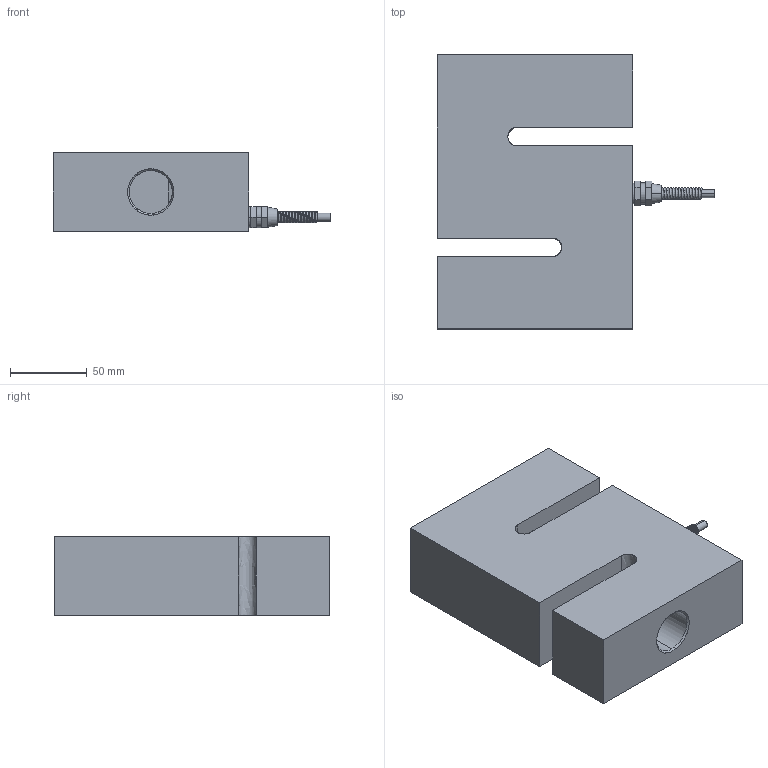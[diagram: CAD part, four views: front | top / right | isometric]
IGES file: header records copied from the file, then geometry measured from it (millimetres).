
Start section: SolidWorks IGES file using analytic representation for surfaces
Global section: file name: O:\16-Entwicklung\Projekte\03_Kraftsensoren\0229_KM1502\01_Mechanik & Gehäuse\01_Solid Works\01_Outline 3D files\3D_KM1502-100KN.IGS; native system: SolidWorks 2012; preprocessor: SolidWorks 2012; author: andreb; date: 130624.095809; units: millimetre
Bounding box: 180.5 x 178 x 50.8 mm (x, y, z)
Surface area: 96914.3 mm2 (no closed solid volume)
Topology: 0 solids, 0 shells, 62 faces, 1038 edges, 1038 vertices
Faces by surface type: bspline 43, revolution 19
